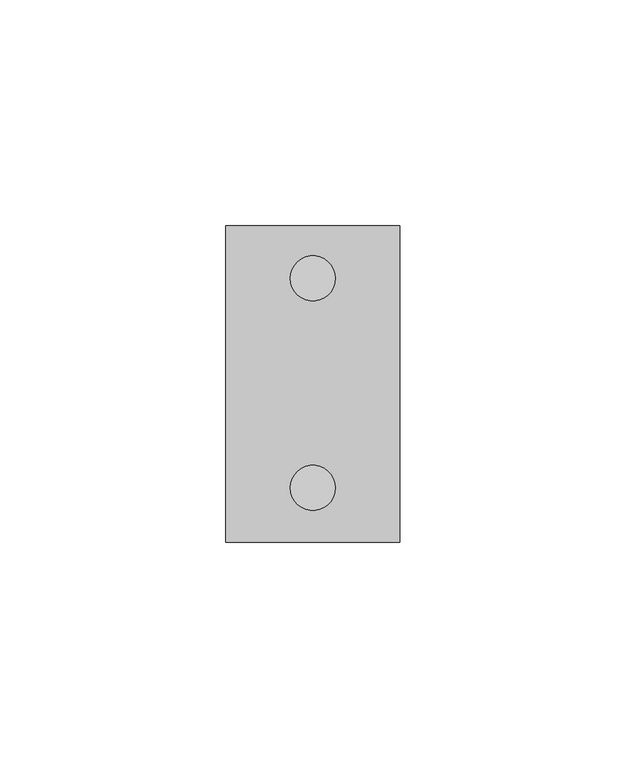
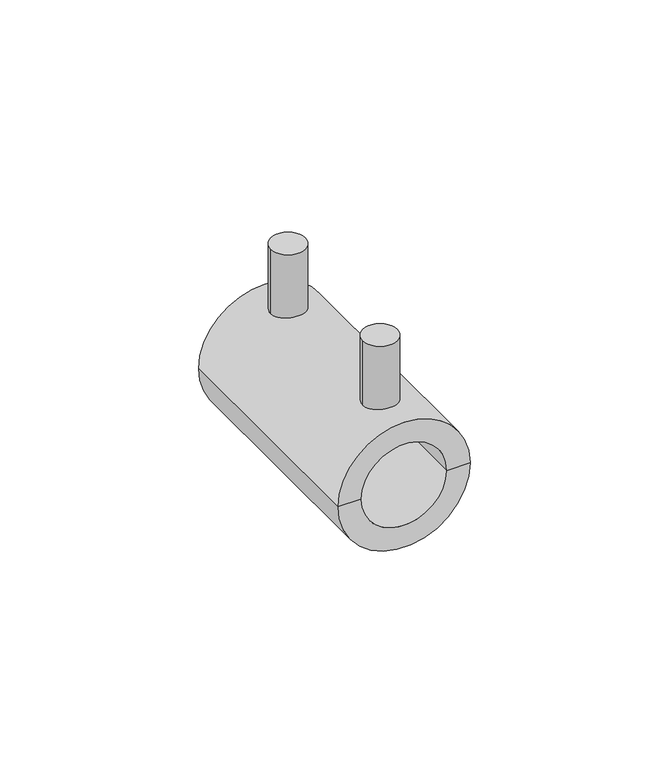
"""IFC4 building model written with IfcOpenShell, lengths in millimetres: pipe fitting geometry, NIRON RED electrico manguito : Estándar."""

from ifc_helpers import new_model, si_unit, point, frame, frame_2d, origin, place, context, project, spatial, polyline, circle_curve, trimmed, segment, composite_curve, outline, extrude, source, transform, mapped, element, save
from ifc_brep_helpers import plane_surface, cylinder_surface, revolved_surface, advanced_brep


def pipe_fitting_3d8ee877(model_context):
    return source(origin(), model_context, "Body", "SolidModel", [
        advanced_brep(
        [(19.25, 70.0, 0.0), (-19.25, 70.0, 0.0), (-12.5, 70.0, 0.0), (12.5, 70.0, 0.0), (19.25, 0.0, 0.0), (-19.25, 0.0, 0.0), (12.5, 0.0, 0.0), (-12.5, 0.0, 0.0), (12.5, 34.0, 0.0), (-12.5, 34.0, 0.0), (10.0, 34.0, 0.0), (-10.0, 34.0, 0.0), (10.0, 36.0, 0.0), (-10.0, 36.0, 0.0), (12.5, 36.0, 0.0), (-12.5, 36.0, 0.0)],
        [
            (0, 1, circle_curve(frame((0.0, 70.0, 0.0), z_axis=(0.0, 1.0, 0.0), x_axis=(-1.0, 0.0, 0.0)), 19.25)),
            (1, 2),
            (2, 3, circle_curve(frame((0.0, 70.0, 0.0), z_axis=(0.0, -1.0, 0.0), x_axis=(-1.0, 0.0, 0.0)), 12.5)),
            (3, 0),
            (1, 0, circle_curve(frame((0.0, 70.0, 0.0), z_axis=(0.0, 1.0, 0.0), x_axis=(-1.0, 0.0, 0.0)), 19.25)),
            (3, 2, circle_curve(frame((0.0, 70.0, 0.0), z_axis=(0.0, -1.0, 0.0), x_axis=(-1.0, 0.0, 0.0)), 12.5)),
            (4, 5, circle_curve(frame((0.0, 0.0, 0.0), z_axis=(0.0, 1.0, 0.0), x_axis=(-1.0, 0.0, 0.0)), 19.25)),
            (5, 1),
            (0, 4),
            (5, 4, circle_curve(frame((0.0, 0.0, 0.0), z_axis=(0.0, 1.0, 0.0), x_axis=(-1.0, 0.0, 0.0)), 19.25)),
            (6, 7, circle_curve(frame((0.0, 0.0, 0.0), z_axis=(0.0, 1.0, 0.0), x_axis=(-1.0, 0.0, 0.0)), 12.5)),
            (7, 5),
            (4, 6),
            (7, 6, circle_curve(frame((0.0, 0.0, 0.0), z_axis=(0.0, 1.0, 0.0), x_axis=(-1.0, 0.0, 0.0)), 12.5)),
            (8, 9, circle_curve(frame((0.0, 34.0, 0.0), z_axis=(0.0, 1.0, 0.0), x_axis=(-1.0, 0.0, 0.0)), 12.5)),
            (9, 7),
            (6, 8),
            (9, 8, circle_curve(frame((0.0, 34.0, 0.0), z_axis=(0.0, 1.0, 0.0), x_axis=(-1.0, 0.0, 0.0)), 12.5)),
            (10, 11, circle_curve(frame((0.0, 34.0, 0.0), z_axis=(0.0, 1.0, 0.0), x_axis=(-1.0, 0.0, 0.0)), 10.0)),
            (11, 9),
            (8, 10),
            (11, 10, circle_curve(frame((0.0, 34.0, 0.0), z_axis=(0.0, 1.0, 0.0), x_axis=(-1.0, 0.0, 0.0)), 10.0)),
            (12, 13, circle_curve(frame((0.0, 36.0, 0.0), z_axis=(0.0, 1.0, 0.0), x_axis=(-1.0, 0.0, 0.0)), 10.0)),
            (13, 11),
            (10, 12),
            (13, 12, circle_curve(frame((0.0, 36.0, 0.0), z_axis=(0.0, 1.0, 0.0), x_axis=(-1.0, 0.0, 0.0)), 10.0)),
            (14, 15, circle_curve(frame((0.0, 36.0, 0.0), z_axis=(0.0, 1.0, 0.0), x_axis=(-1.0, 0.0, 0.0)), 12.5)),
            (15, 13),
            (12, 14),
            (15, 14, circle_curve(frame((0.0, 36.0, 0.0), z_axis=(0.0, 1.0, 0.0), x_axis=(-1.0, 0.0, 0.0)), 12.5)),
            (2, 15),
            (14, 3),
        ],
        [
            plane_surface(frame((0.0, 70.0, 0.0), z_axis=(0.0, 1.0, 0.0), x_axis=(-1.0, 0.0, 0.0))),
            cylinder_surface(frame((0.0, 95.0, 0.0), z_axis=(0.0, -1.0, 0.0), x_axis=(-1.0, 0.0, 0.0)), 19.25),
            plane_surface(frame((0.0, 0.0, 0.0), z_axis=(0.0, -1.0, 0.0), x_axis=(-1.0, 0.0, 0.0))),
            revolved_surface(polyline([(-12.5, 0.0, 0.0), (-12.5, 34.0, 0.0)]), (0.0, 95.0, 0.0), (0.0, -1.0, 0.0)),
            plane_surface(frame((0.0, 34.0, 0.0), z_axis=(0.0, -1.0, 0.0), x_axis=(-1.0, 0.0, 0.0))),
            revolved_surface(polyline([(-10.0, 34.0, 0.0), (-10.0, 36.0, 0.0)]), (0.0, 95.0, 0.0), (0.0, -1.0, 0.0)),
            plane_surface(frame((0.0, 36.0, 0.0), z_axis=(0.0, 1.0, 0.0), x_axis=(-1.0, 0.0, 0.0))),
            revolved_surface(polyline([(-12.5, 36.0, 0.0), (-12.5, 70.0, 0.0)]), (0.0, 95.0, 0.0), (0.0, -1.0, 0.0)),
        ],
        [
            (0, [[1, 2, 3, 4]]),
            (0, [[5, -4, 6, -2]]),
            (1, [[7, 8, -1, 9]]),
            (1, [[10, -9, -5, -8]]),
            (2, [[11, 12, -7, 13]]),
            (2, [[14, -13, -10, -12]]),
            (3, [[15, 16, -11, 17]]),
            (3, [[18, -17, -14, -16]]),
            (4, [[19, 20, -15, 21]]),
            (4, [[22, -21, -18, -20]]),
            (5, [[23, 24, -19, 25]]),
            (5, [[26, -25, -22, -24]]),
            (6, [[27, 28, -23, 29]]),
            (6, [[30, -29, -26, -28]]),
            (7, [[-3, 31, -27, 32]]),
            (7, [[-6, -32, -30, -31]]),
        ],
    ),
        extrude(outline(composite_curve([segment(trimmed(circle_curve(frame_2d((0.0, 12.0)), 5.0), [point((-5.0, 12.0))], [point((5.0, 12.0))], False, "CARTESIAN"), True, "CONTINUOUS"), segment(trimmed(circle_curve(frame_2d((0.0, 12.0)), 5.0), [point((5.0, 12.0))], [point((-5.0, 12.0))], False, "CARTESIAN"), True, "CONTINUOUS")], self_intersect=False)), frame((0.0, 0.0, 16.25), z_axis=(0.0, 0.0, 1.0), x_axis=(1.0, 0.0, 0.0)), (0.0, 0.0, 1.0), 22.5),
        extrude(outline(composite_curve([segment(trimmed(circle_curve(frame_2d((0.0, 58.3742842)), 5.0), [point((-5.0, 58.3742842))], [point((5.0, 58.3742842))], False, "CARTESIAN"), True, "CONTINUOUS"), segment(trimmed(circle_curve(frame_2d((0.0, 58.3742842)), 5.0), [point((5.0, 58.3742842))], [point((-5.0, 58.3742842))], False, "CARTESIAN"), True, "CONTINUOUS")], self_intersect=False)), frame((0.0, 0.0, 16.25), z_axis=(0.0, 0.0, 1.0), x_axis=(1.0, 0.0, 0.0)), (0.0, 0.0, 1.0), 22.5),
    ])


if __name__ == "__main__":
    model = new_model("IFC4")
    model_context = context("Model", 3, world=origin())
    ifc_project = project(units=[si_unit("LENGTHUNIT", "METRE", prefix="MILLI")], contexts=[model_context])
    site = spatial("IfcSite", under=ifc_project)
    building = spatial("IfcBuilding", under=site)
    placement = place(None, origin())
    pipe_fitting_shape = pipe_fitting_3d8ee877(model_context)
    element("IfcPipeFitting", 1, ObjectType="NIRON RED electrico manguito : Estándar", at=placement, inside=building, context=model_context, shape_type="MappedRepresentation", body=[
        mapped(pipe_fitting_shape, transform((0.0, 0.0, 0.0), x_axis=(1.0, 0.0, 0.0), y_axis=(0.0, 1.0, 0.0), z_axis=(0.0, 0.0, 1.0))),
    ])
    save(model, "model.ifc")
